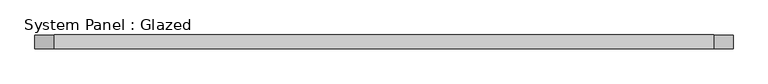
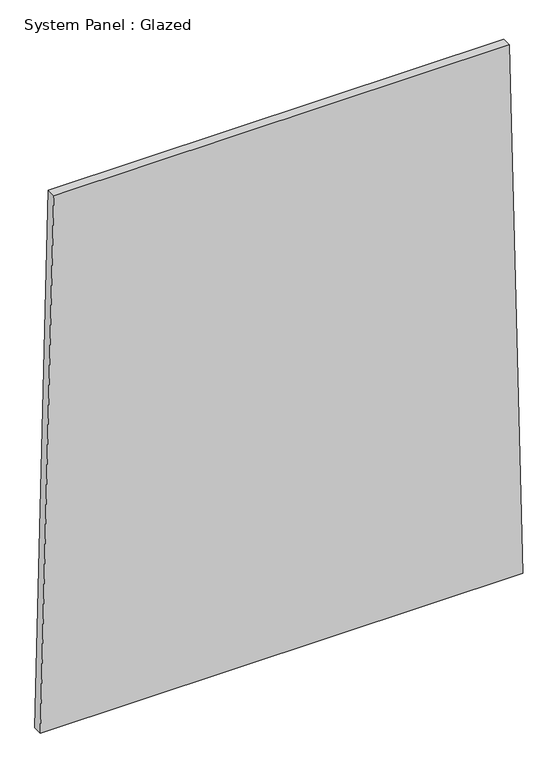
"""IFC4 building model written with IfcOpenShell, lengths in millimetres: plate geometry, System Panel : Glazed."""

import ifcopenshell
import ifcopenshell.guid

model = None  # the IFC model being written
_history = None  # IfcOwnerHistory: only IFC2X3 demands one
_inside = {}  # id of a spatial element -> (the spatial element, [elements in it])
_under = {}  # id of a project, library or spatial element -> (it, [spatial elements below it])
_declared = {}  # id of a project -> (the project, [libraries it declares])
_typed = {}  # id of a type object -> (the type object, [elements of that type])
_made_of = {}  # id of a material, layer set ... -> (it, [elements and type objects made of it])


def new_model(schema):
    """Start an empty IFC model of exactly this schema.

    Asked for "IFC4X3", IfcOpenShell would pick the latest addendum, in which some entities
    have other attributes; the version numbers below select the first issue.
    IFC2X3 requires an IfcOwnerHistory on every rooted entity: one is made here for all.
    """
    global model, _history
    if schema == "IFC4X3":
        model = ifcopenshell.file(schema_version=(4, 3, 0, 0))
    else:
        model = ifcopenshell.file(schema=schema)
    _inside.clear()
    _under.clear()
    _declared.clear()
    _typed.clear()
    _made_of.clear()
    _history = None
    if model.schema == "IFC2X3":
        org = make("IfcOrganization", Name="unknown")
        user = make(
            "IfcPersonAndOrganization",
            ThePerson=make("IfcPerson", FamilyName="unknown"),
            TheOrganization=org,
        )
        app = make(
            "IfcApplication",
            ApplicationDeveloper=org,
            Version="unknown",
            ApplicationFullName="unknown",
            ApplicationIdentifier="unknown",
        )
        _history = make(
            "IfcOwnerHistory",
            OwningUser=user,
            OwningApplication=app,
            ChangeAction="ADDED",
            CreationDate=0,
        )
    return model


def make(cls, **values):
    """One entity of the class cls with the attributes given. An attribute that is None is left unset."""
    return model.create_entity(
        cls, **{name: value for name, value in values.items() if value is not None}
    )


def rooted(cls, **values):
    """An entity with a GlobalId (a new one), such as an element, a storey or a relation."""
    return make(cls, GlobalId=ifcopenshell.guid.new(), OwnerHistory=_history, **values)


def si_unit(unit_type, name, prefix=None):
    """IfcSIUnit, for example si_unit("LENGTHUNIT", "METRE", prefix="MILLI")."""
    return make("IfcSIUnit", UnitType=unit_type, Prefix=prefix, Name=name)


def assignment(units):
    """IfcUnitAssignment: the units of a project."""
    return None if units is None else make("IfcUnitAssignment", Units=units)


def point(xyz):
    """IfcCartesianPoint."""
    return None if xyz is None else make("IfcCartesianPoint", Coordinates=xyz)


def direction(xyz):
    """IfcDirection."""
    return None if xyz is None else make("IfcDirection", DirectionRatios=xyz)


def frame(location, z_axis=None, x_axis=None):
    """IfcAxis2Placement3D, a coordinate frame: its origin and axes. An axis left out is left unset."""
    return make(
        "IfcAxis2Placement3D",
        Location=point(location),
        Axis=direction(z_axis),
        RefDirection=direction(x_axis),
    )


def origin():
    """The frame at (0, 0, 0) with its axes left unset."""
    return frame((0.0, 0.0, 0.0))


def place(relative_to, where):
    """IfcLocalPlacement: puts the frame where relative to a parent placement (None: the world)."""
    return make(
        "IfcLocalPlacement", PlacementRelTo=relative_to, RelativePlacement=where
    )


def context(
    kind, dimensions, precision=None, world=None, true_north=None, identifier=None
):
    """IfcGeometricRepresentationContext, for example the 3D "Model" context."""
    return make(
        "IfcGeometricRepresentationContext",
        ContextIdentifier=identifier,
        ContextType=kind,
        CoordinateSpaceDimension=dimensions,
        Precision=precision,
        WorldCoordinateSystem=world,
        TrueNorth=true_north,
    )


def project(units=None, contexts=None):
    """IfcProject with its units and contexts."""
    return rooted(
        "IfcProject",
        Name="project",
        RepresentationContexts=contexts,
        UnitsInContext=assignment(units),
    )


def spatial(cls, under=None, at=None, **own):
    """A site, building, storey or space (cls), placed at a placement, below another one or the project."""
    s = rooted(cls, ObjectPlacement=at, **own)
    if under is not None:
        _under.setdefault(under.id(), (under, []))[1].append(s)
    return s


def polyline(points):
    """IfcPolyline through the points."""
    return make("IfcPolyline", Points=[point(p) for p in points])


def outline(outer, holes=None, kind="AREA"):
    """IfcArbitraryClosedProfileDef: a profile drawn as a closed curve; with holes, ...WithVoids."""
    if holes is None:
        return make("IfcArbitraryClosedProfileDef", ProfileType=kind, OuterCurve=outer)
    return make(
        "IfcArbitraryProfileDefWithVoids",
        ProfileType=kind,
        OuterCurve=outer,
        InnerCurves=holes,
    )


def extrude(swept, where, along, depth):
    """IfcExtrudedAreaSolid: the profile swept, set in the frame where, extruded along a direction by depth."""
    return make(
        "IfcExtrudedAreaSolid",
        SweptArea=swept,
        Position=where,
        ExtrudedDirection=direction(along),
        Depth=depth,
    )


def shape(context_of_items, identifier, shape_type, items):
    """IfcShapeRepresentation: the items that make up one representation, for example the "Body"."""
    return make(
        "IfcShapeRepresentation",
        ContextOfItems=context_of_items,
        RepresentationIdentifier=identifier,
        RepresentationType=shape_type,
        Items=items,
    )


def source(mapping_origin, context_of_items, identifier, shape_type, items):
    """IfcRepresentationMap: a shape defined once, which mapped items show again and again."""
    return make(
        "IfcRepresentationMap",
        MappingOrigin=mapping_origin,
        MappedRepresentation=shape(context_of_items, identifier, shape_type, items),
    )


def transform(
    local_origin,
    x_axis=None,
    y_axis=None,
    z_axis=None,
    scale=None,
    scale2=None,
    scale3=None,
    uniform=True,
):
    """IfcCartesianTransformationOperator3D, or its non-uniform kind. x_axis, y_axis, z_axis: its Axis1, 2, 3."""
    if uniform:
        return make(
            "IfcCartesianTransformationOperator3D",
            Axis1=direction(x_axis),
            Axis2=direction(y_axis),
            LocalOrigin=point(local_origin),
            Scale=scale,
            Axis3=direction(z_axis),
        )
    return make(
        "IfcCartesianTransformationOperator3DnonUniform",
        Axis1=direction(x_axis),
        Axis2=direction(y_axis),
        LocalOrigin=point(local_origin),
        Scale=scale,
        Axis3=direction(z_axis),
        Scale2=scale2,
        Scale3=scale3,
    )


def mapped(mapping_source, mapping_target):
    """IfcMappedItem: shows the shape of a source again, moved by a transform."""
    return make(
        "IfcMappedItem", MappingSource=mapping_source, MappingTarget=mapping_target
    )


def made_of(thing, what):
    """Note that an element or type object is made of a material, layer set ...; save() writes the relation."""
    if what is not None:
        _made_of.setdefault(what.id(), (what, []))[1].append(thing)
    return thing


def element(
    cls,
    number,
    at=None,
    inside=None,
    cuts=None,
    type_object=None,
    material=None,
    context=None,
    identifier="Body",
    shape_type=None,
    held_by="IfcProductDefinitionShape",
    body=None,
    shapes=None,
    **own,
):
    """One element of the class cls, such as IfcWall. Its Tag is "e" and its number.

    at: its placement. inside: the storey or other place that contains it. cuts: it is an
    opening in that element (IfcRelVoidsElement). A single representation is given by context,
    identifier, shape_type and body (its items); several are given by shapes. held_by: the class
    of the entity that holds the representations. save() writes the other relations.
    """
    e = rooted(cls, Tag="e%d" % number, ObjectPlacement=at, **own)
    if body is not None:
        shapes = [shape(context, identifier, shape_type, body)]
    if shapes is not None:
        e.Representation = make(held_by, Representations=shapes)
    if inside is not None:
        _inside.setdefault(inside.id(), (inside, []))[1].append(e)
    if cuts is not None:
        rooted(
            "IfcRelVoidsElement", RelatingBuildingElement=cuts, RelatedOpeningElement=e
        )
    if type_object is not None:
        _typed.setdefault(type_object.id(), (type_object, []))[1].append(e)
    return made_of(e, material)


def aggregate(whole, parts):
    """IfcRelAggregates: a whole, such as a stair, and the parts it consists of."""
    return rooted("IfcRelAggregates", RelatingObject=whole, RelatedObjects=parts)


def save(model, path):
    """Write the relations noted so far, then the file.

    IfcRelAggregates (storeys below a building ...), IfcRelContainedInSpatialStructure (elements
    in a storey), IfcRelDefinesByType, IfcRelAssociatesMaterial and IfcRelDeclares: one each for
    every whole, place, type object, material and project.
    """
    for whole, parts in _under.values():
        aggregate(whole, parts)
    for where, things in _inside.values():
        rooted(
            "IfcRelContainedInSpatialStructure",
            RelatedElements=things,
            RelatingStructure=where,
        )
    for kind, things in _typed.values():
        rooted("IfcRelDefinesByType", RelatedObjects=things, RelatingType=kind)
    for what, things in _made_of.values():
        rooted("IfcRelAssociatesMaterial", RelatedObjects=things, RelatingMaterial=what)
    for by, libraries in _declared.values():
        rooted("IfcRelDeclares", RelatingContext=by, RelatedDefinitions=libraries)
    model.write(path)


def system_panel_glazed_745dfbfd(model_context):
    return source(origin(), model_context, "Body", "SweptSolid", [
        extrude(outline(polyline([(0.0, -652.2469136), (0.0, 652.2469136), (1523.5691506, 616.0109739), (1523.5691506, -616.0109739), (0.0, -652.2469136)])), frame((0.0, -44.45, 0.0), z_axis=(0.0, 1.0, 0.0), x_axis=(0.0, 0.0, 1.0)), (0.0, 0.0, 1.0), 25.4),
    ])


if __name__ == "__main__":
    model = new_model("IFC4")
    model_context = context("Model", 3, world=origin())
    ifc_project = project(units=[si_unit("LENGTHUNIT", "METRE", prefix="MILLI")], contexts=[model_context])
    site = spatial("IfcSite", under=ifc_project)
    building = spatial("IfcBuilding", under=site)
    placement = place(None, origin())
    system_panel_glazed_shape = system_panel_glazed_745dfbfd(model_context)
    element("IfcPlate", 1, ObjectType="System Panel : Glazed", at=placement, inside=building, context=model_context, shape_type="MappedRepresentation", body=[
        mapped(system_panel_glazed_shape, transform((0.0, 0.0, 0.0), x_axis=(1.0, 0.0, 0.0), y_axis=(0.0, 1.0, 0.0), z_axis=(0.0, 0.0, 1.0))),
    ])
    save(model, "model.ifc")
